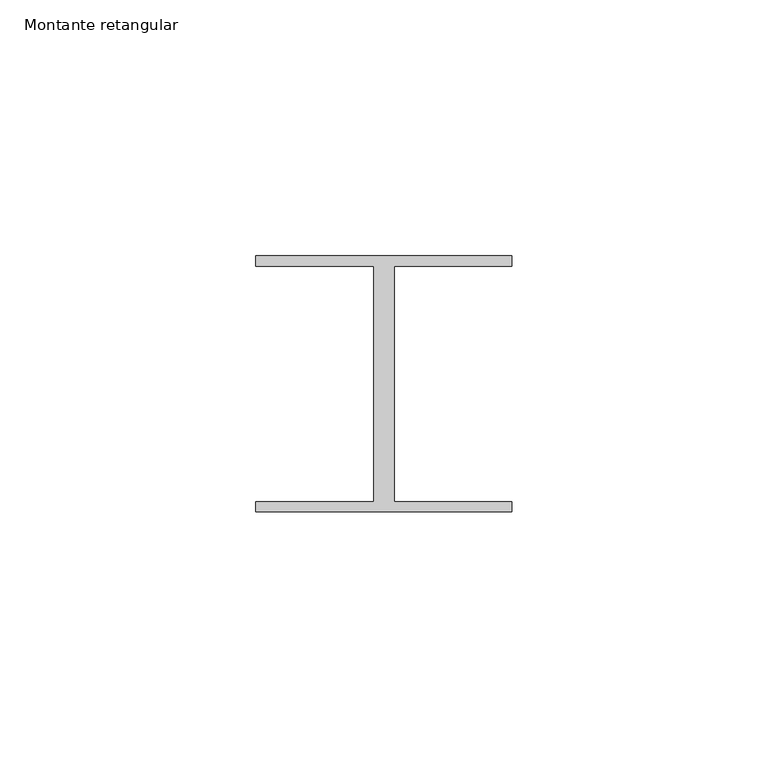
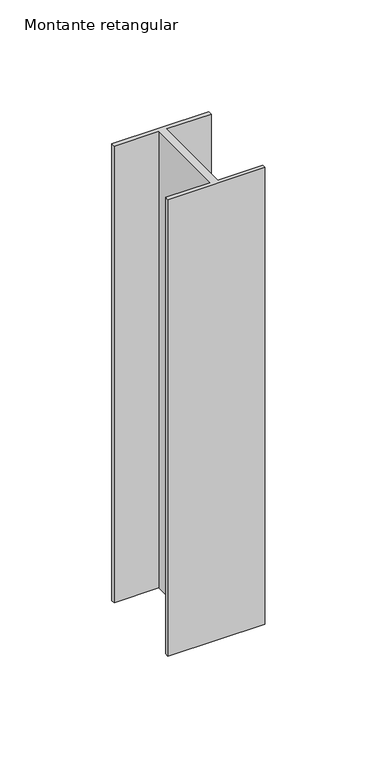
"""IFC4 building model written with IfcOpenShell, lengths in millimetres: member geometry, Montante retangular : FDE_MontanteVenezianaIndustrial_Intermediário_Ref50 (Alumínio Anodizado)."""

from ifc_helpers import new_model, si_unit, frame, origin, place, context, project, spatial, polyline, outline, extrude, source, transform, mapped, element, save


def montante_retangular_02d07947(model_context):
    return source(origin(), model_context, "Body", "SweptSolid", [
        extrude(outline(polyline([(-25.0, 25.0), (25.0, 25.0), (25.0, 23.0), (2.0, 23.0), (2.0, -23.0), (25.0, -23.0), (25.0, -25.0), (-25.0, -25.0), (-25.0, -23.0), (-2.0, -23.0), (-2.0, 23.0), (-25.0, 23.0), (-25.0, 25.0)])), frame((0.0, 0.0, -249.0), z_axis=(0.0, 0.0, 1.0), x_axis=(1.0, 0.0, 0.0)), (0.0, 0.0, 1.0), 249.0),
    ])


if __name__ == "__main__":
    model = new_model("IFC4")
    model_context = context("Model", 3, world=origin())
    ifc_project = project(units=[si_unit("LENGTHUNIT", "METRE", prefix="MILLI")], contexts=[model_context])
    site = spatial("IfcSite", under=ifc_project)
    building = spatial("IfcBuilding", under=site)
    placement = place(None, origin())
    montante_retangular_shape = montante_retangular_02d07947(model_context)
    element("IfcMember", 1, ObjectType="Montante retangular : FDE_MontanteVenezianaIndustrial_Intermediário_Ref50 (Alumínio Anodizado)", at=placement, inside=building, context=model_context, shape_type="MappedRepresentation", body=[
        mapped(montante_retangular_shape, transform((0.0, 0.0, 0.0), x_axis=(1.0, 0.0, 0.0), y_axis=(0.0, 1.0, 0.0), z_axis=(0.0, 0.0, 1.0))),
    ])
    save(model, "model.ifc")
